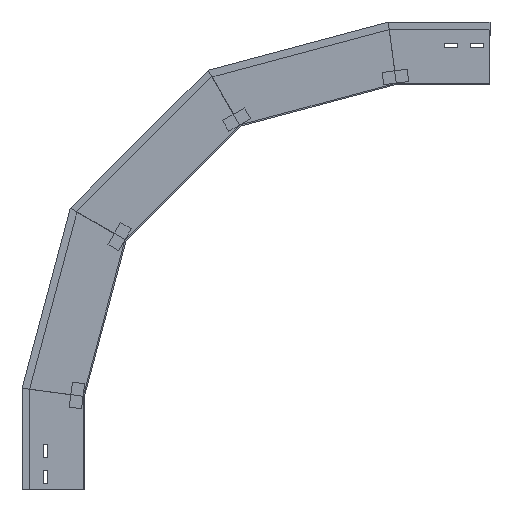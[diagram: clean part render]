
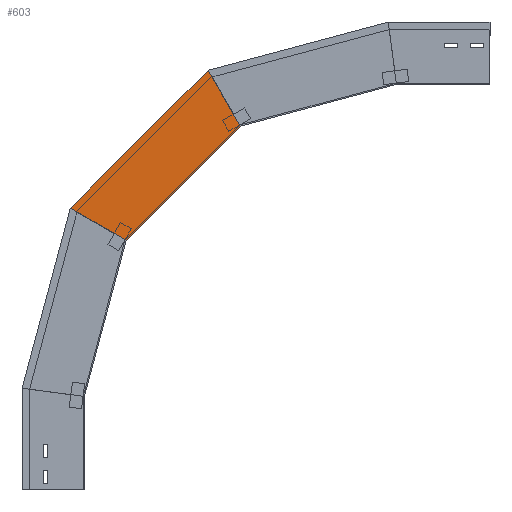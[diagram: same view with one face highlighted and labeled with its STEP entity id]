
A CAD part, left-side view. The second image highlights one B-rep face of the part: STEP entity #603.
In plain terms, the highlighted planar face has unit normal (-1, 0, 0) as drawn and (1, 0, 0) by its records, which use the part's own axes.
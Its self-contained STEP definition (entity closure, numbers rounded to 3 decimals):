
#21 = CARTESIAN_POINT ( 'NONE',  ( 0., -250.175, 583.315 ) ) ;
#31 = CARTESIAN_POINT ( 'NONE',  ( 0., -46.122, 379.263 ) ) ;
#52 = ORIENTED_EDGE ( 'NONE', *, *, #680, .F. ) ;
#88 = VERTEX_POINT ( 'NONE', #817 ) ;
#124 = EDGE_LOOP ( 'NONE', ( #366, #1477, #951, #52 ) ) ;
#252 = CARTESIAN_POINT ( 'NONE',  ( 0., -198.411, 672.973 ) ) ;
#287 = VECTOR ( 'NONE', #1497, 1000. ) ;
#366 = ORIENTED_EDGE ( 'NONE', *, *, #1481, .T. ) ;
#367 = DIRECTION ( 'NONE',  ( 0., -0.707, 0.707 ) ) ;
#519 = LINE ( 'NONE', #1707, #1540 ) ;
#526 = LINE ( 'NONE', #779, #1124 ) ;
#603 = ADVANCED_FACE ( 'NONE', ( #624 ), #1229, .T. ) ;
#609 = DIRECTION ( 'NONE',  ( 1., 0., 0. ) ) ;
#624 = FACE_OUTER_BOUND ( 'NONE', #124, .T. ) ;
#680 = EDGE_CURVE ( 'NONE', #88, #1718, #519, .T. ) ;
#779 = CARTESIAN_POINT ( 'NONE',  ( 0., 24.589, 449.973 ) ) ;
#817 = CARTESIAN_POINT ( 'NONE',  ( 0., 22.623, 451.939 ) ) ;
#823 = VECTOR ( 'NONE', #1695, 1000. ) ;
#911 = DIRECTION ( 'NONE',  ( 0., 0., -1. ) ) ;
#951 = ORIENTED_EDGE ( 'NONE', *, *, #1052, .F. ) ;
#952 = VERTEX_POINT ( 'NONE', #21 ) ;
#977 = AXIS2_PLACEMENT_3D ( 'NONE', #31, #609, #911 ) ;
#1052 = EDGE_CURVE ( 'NONE', #1718, #952, #1184, .T. ) ;
#1082 = EDGE_CURVE ( 'NONE', #1886, #952, #1351, .T. ) ;
#1124 = VECTOR ( 'NONE', #367, 1000. ) ;
#1135 = CARTESIAN_POINT ( 'NONE',  ( 0., -67.034, 400.175 ) ) ;
#1184 = LINE ( 'NONE', #1489, #287 ) ;
#1229 = PLANE ( 'NONE',  #977 ) ;
#1351 = LINE ( 'NONE', #1542, #823 ) ;
#1477 = ORIENTED_EDGE ( 'NONE', *, *, #1082, .T. ) ;
#1481 = EDGE_CURVE ( 'NONE', #88, #1886, #526, .T. ) ;
#1489 = CARTESIAN_POINT ( 'NONE',  ( 0., -46.122, 379.263 ) ) ;
#1497 = DIRECTION ( 'NONE',  ( 0., -0.707, 0.707 ) ) ;
#1540 = VECTOR ( 'NONE', #1566, 1000. ) ;
#1542 = CARTESIAN_POINT ( 'NONE',  ( 0., -287.519, 518.633 ) ) ;
#1566 = DIRECTION ( 'NONE',  ( 0., -0.866, -0.5 ) ) ;
#1695 = DIRECTION ( 'NONE',  ( 0., -0.5, -0.866 ) ) ;
#1707 = CARTESIAN_POINT ( 'NONE',  ( 0., -128.356, 364.771 ) ) ;
#1718 = VERTEX_POINT ( 'NONE', #1135 ) ;
#1886 = VERTEX_POINT ( 'NONE', #252 ) ;
